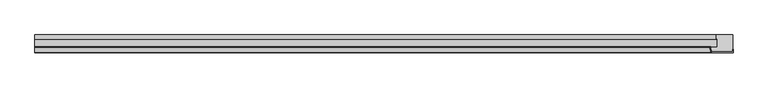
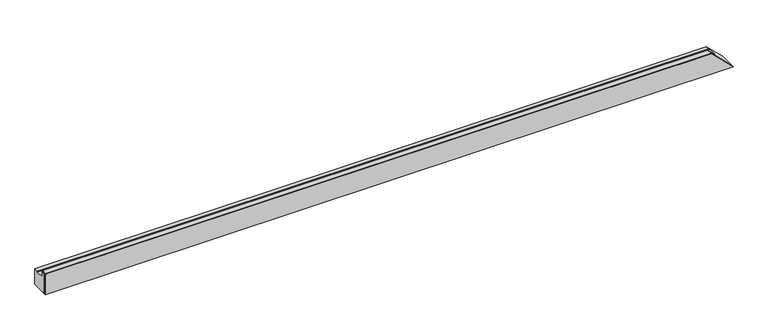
"""IFC4 building model written with IfcOpenShell, lengths in millimetres: proxy geometry, Weiku - Montante - Caixilho 02.2.01.005 : Weiku - Montante - Caixilho 02.2.01.005."""

from ifc_helpers import new_model, si_unit, frame, origin, place, context, project, spatial, polyline, circle_curve, ellipse_curve, source, transform, mapped, element, save
from ifc_brep_helpers import plane_surface, cylinder_surface, revolved_surface, advanced_brep


def generic_models_94b8e15c(model_context):
    return source(origin(), model_context, "Body", "AdvancedBrep", [
        advanced_brep(
        [(983.4663236, -4.0, 64.0336764), (1048.5, -4.0, -1.0), (1048.5, 6.4862095, -1.0), (1047.5, 6.4862095, 0.0), (1047.5, 0.0, 0.0), (985.9997332, 0.0, 61.5002668), (983.1019557, 2.2235429, 64.3980443), (980.618227, 11.4929448, 66.881773), (981.3909676, 12.5, 66.1090324), (981.3909676, 14.5, 66.1090324), (978.6863753, 10.9753067, 68.8136247), (982.5003978, -3.258819, 64.9996022), (-1047.5, -4.0, 64.0336764), (-1047.5, -4.0, -1.0), (-1047.5, -3.258819, 64.9996022), (-1047.5, 10.9753067, 68.8136247), (-1047.5, 14.5, 66.1090324), (-1047.5, 12.5, 66.1090324), (-1047.5, 11.4929448, 66.881773), (-1047.5, 2.2235429, 64.3980443), (-1047.5, 0.0, 61.5002668), (-1047.5, 0.0, 0.0), (-1047.5, 6.4862095, 0.0), (-1047.5, 6.4862095, -1.0)],
        [
            (0, 1),
            (1, 2),
            (2, 3),
            (3, 4),
            (4, 5),
            (5, 6, ellipse_curve(frame((985.9997332, 3.0, 61.5002668), z_axis=(-0.7071067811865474, 0.0, -0.7071067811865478), x_axis=(0.7071067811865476, 0.0, -0.7071067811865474)), 4.2426407, 3.0)),
            (6, 7),
            (7, 8, ellipse_curve(frame((981.3909676, 11.7, 66.1090324), z_axis=(-0.7071067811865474, 0.0, -0.7071067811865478), x_axis=(0.7071067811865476, 0.0, -0.7071067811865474)), 1.1313708, 0.8)),
            (8, 9),
            (9, 10, ellipse_curve(frame((981.3909676, 11.7, 66.1090324), z_axis=(0.7071067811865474, 0.0, 0.7071067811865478), x_axis=(-0.7071067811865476, 0.0, 0.7071067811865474)), 3.959798, 2.8)),
            (10, 11),
            (11, 0, ellipse_curve(frame((983.4663236, -3.0, 64.0336764), z_axis=(0.7071067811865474, 0.0, 0.7071067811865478), x_axis=(-0.7071067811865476, 0.0, 0.7071067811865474)), 1.4142136, 1.0)),
            (12, 13),
            (13, 1),
            (0, 12),
            (14, 12, circle_curve(frame((-1047.5, -3.0, 64.0336764), z_axis=(1.0, 0.0, 0.0), x_axis=(0.0, 1.0, 0.0)), 1.0)),
            (11, 14),
            (15, 14),
            (10, 15),
            (16, 15, circle_curve(frame((-1047.5, 11.7, 66.1090324), z_axis=(1.0, 0.0, 0.0), x_axis=(0.0, 1.0, 0.0)), 2.8)),
            (9, 16),
            (17, 16),
            (8, 17),
            (18, 17, circle_curve(frame((-1047.5, 11.7, 66.1090324), z_axis=(-1.0, 0.0, 0.0), x_axis=(0.0, 1.0, 0.0)), 0.8)),
            (7, 18),
            (19, 18),
            (6, 19),
            (20, 19, circle_curve(frame((-1047.5, 3.0, 61.5002668), z_axis=(-1.0, 0.0, 0.0), x_axis=(0.0, 1.0, 0.0)), 3.0)),
            (5, 20),
            (21, 20),
            (4, 21),
            (22, 21),
            (3, 22),
            (23, 22),
            (2, 23),
            (13, 23),
        ],
        [
            plane_surface(frame((977.5, -15.0, 70.0), z_axis=(0.7071067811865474, 0.0, 0.7071067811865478), x_axis=(0.0, 1.0, 0.0))),
            plane_surface(frame((-1047.5, -4.0, -1.0), z_axis=(0.0, -1.0, 0.0), x_axis=(1.0, 0.0, 0.0))),
            cylinder_surface(frame((-1047.5, -3.0, 64.0336764), z_axis=(-1.0, 0.0, 0.0), x_axis=(0.0, 1.0, 0.0)), 1.0),
            plane_surface(frame((-1047.5, -3.258819, 64.9996022), z_axis=(0.0, -0.25881904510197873, 0.9659258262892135), x_axis=(1.0, 0.0, 0.0))),
            cylinder_surface(frame((-1047.5, 11.7, 66.1090324), z_axis=(-1.0, 0.0, 0.0), x_axis=(0.0, 1.0, 0.0)), 2.8),
            plane_surface(frame((-1047.5, 14.5, 66.1090324), z_axis=(0.0, 0.0, -1.0), x_axis=(1.0, 0.0, 0.0))),
            revolved_surface(polyline([(982.1909675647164, 12.5, 66.1090324), (-1047.5, 12.5, 66.1090324)]), (-1047.5, 11.7, 66.1090324), (1.0, 0.0, 0.0)),
            plane_surface(frame((-1047.5, 11.4929448, 66.881773), z_axis=(0.0, 0.2588190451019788, -0.9659258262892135), x_axis=(1.0, 0.0, 0.0))),
            revolved_surface(polyline([(988.9997332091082, 6.0, 61.5002668), (-1047.5, 6.0, 61.5002668)]), (-1047.5, 3.0, 61.5002668), (1.0, 0.0, 0.0)),
            plane_surface(frame((-1047.5, 0.0, 61.5002668), z_axis=(0.0, 1.0, 0.0), x_axis=(1.0, 0.0, 0.0))),
            plane_surface(frame((-1047.5, 0.0, 0.0), z_axis=(0.0, 0.0, 1.0), x_axis=(1.0, 0.0, 0.0))),
            plane_surface(frame((-1047.5, 6.4862095, 0.0), z_axis=(0.0, 1.0, 0.0), x_axis=(1.0, 0.0, 0.0))),
            plane_surface(frame((-1047.5, 6.4862095, -1.0), z_axis=(0.0, 0.0, -1.0), x_axis=(1.0, 0.0, 0.0))),
            plane_surface(frame((-1047.5, 0.0, 0.0), z_axis=(-1.0, 0.0, 0.0), x_axis=(0.0, 0.0, 1.0))),
        ],
        [
            (0, [[1, 2, 3, 4, 5, 6, 7, 8, 9, 10, 11, 12]]),
            (1, [[13, 14, -1, 15]]),
            (2, [[16, -15, -12, 17]]),
            (3, [[18, -17, -11, 19]]),
            (4, [[20, -19, -10, 21]]),
            (5, [[22, -21, -9, 23]]),
            (6, [[24, -23, -8, 25]]),
            (7, [[26, -25, -7, 27]]),
            (8, [[28, -27, -6, 29]]),
            (9, [[30, -29, -5, 31]]),
            (10, [[32, -31, -4, 33]]),
            (11, [[34, -33, -3, 35]]),
            (12, [[36, -35, -2, -14]]),
            (13, [[-13, -16, -18, -20, -22, -24, -26, -28, -30, -32, -34, -36]]),
        ],
    ),
        advanced_brep(
        [(-1047.5, 12.5, 46.0), (-1047.5, 12.5, 66.1090324), (981.3909676, 12.5, 66.1090324), (1001.5, 12.5, 46.0), (-1047.5, 37.8314286, 46.0), (1001.5, 37.8314286, 46.0), (-1047.5, 37.027581, 49.0), (998.5, 37.027581, 49.0), (-1047.5, 50.0, 49.0), (998.5, 50.0, 49.0), (-1047.5, 50.0, 0.0), (1047.5, 50.0, 0.0), (-1047.5, 0.0, 0.0), (1047.5, 0.0, 0.0), (-1047.5, 0.0, 61.5002668), (985.9997332, 0.0, 61.5002668), (-1047.5, 11.4929448, 66.881773), (-1047.5, 2.2235429, 64.3980443), (983.1019557, 2.2235429, 64.3980443), (980.618227, 11.4929448, 66.881773)],
        [
            (0, 1),
            (1, 2),
            (2, 3),
            (3, 0),
            (4, 0),
            (3, 5),
            (5, 4),
            (6, 4),
            (5, 7),
            (7, 6),
            (8, 6),
            (7, 9),
            (9, 8),
            (10, 8),
            (9, 11),
            (11, 10),
            (12, 10),
            (11, 13),
            (13, 12),
            (14, 12),
            (13, 15),
            (15, 14),
            (16, 17),
            (17, 18),
            (18, 19),
            (19, 16),
            (2, 19, ellipse_curve(frame((981.3909676, 11.7, 66.1090324), z_axis=(0.7071067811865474, 0.0, 0.7071067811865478), x_axis=(-0.7071067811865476, 0.0, 0.7071067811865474)), 1.1313708, 0.8)),
            (18, 15, ellipse_curve(frame((985.9997332, 3.0, 61.5002668), z_axis=(0.7071067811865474, 0.0, 0.7071067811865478), x_axis=(-0.7071067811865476, 0.0, 0.7071067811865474)), 4.2426407, 3.0)),
            (1, 16, circle_curve(frame((-1047.5, 11.7, 66.1090324), z_axis=(1.0, 0.0, 0.0), x_axis=(0.0, 1.0, 0.0)), 0.8)),
            (17, 14, circle_curve(frame((-1047.5, 3.0, 61.5002668), z_axis=(1.0, 0.0, 0.0), x_axis=(0.0, 1.0, 0.0)), 3.0)),
        ],
        [
            plane_surface(frame((-1047.5, 12.5, 66.1090324), z_axis=(0.0, 1.0, 0.0), x_axis=(1.0, 0.0, 0.0))),
            plane_surface(frame((-1047.5, 12.5, 46.0), z_axis=(0.0, 0.0, 1.0), x_axis=(1.0, 0.0, 0.0))),
            plane_surface(frame((-1047.5, 37.8314286, 46.0), z_axis=(0.0, -0.9659258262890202, -0.2588190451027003), x_axis=(1.0, 0.0, 0.0))),
            plane_surface(frame((-1047.5, 37.027581, 49.0), z_axis=(0.0, 0.0, 1.0), x_axis=(1.0, 0.0, 0.0))),
            plane_surface(frame((-1047.5, 50.0, 49.0), z_axis=(0.0, 1.0, 0.0), x_axis=(1.0, 0.0, 0.0))),
            plane_surface(frame((-1047.5, 50.0, 0.0), z_axis=(0.0, 0.0, -1.0), x_axis=(1.0, 0.0, 0.0))),
            plane_surface(frame((-1047.5, 0.0, 0.0), z_axis=(0.0, -1.0, 0.0), x_axis=(1.0, 0.0, 0.0))),
            plane_surface(frame((-1047.5, 2.2235429, 64.3980443), z_axis=(0.0, -0.2588190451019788, 0.9659258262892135), x_axis=(1.0, 0.0, 0.0))),
            plane_surface(frame((977.5, -15.0, 70.0), z_axis=(0.7071067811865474, 0.0, 0.7071067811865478), x_axis=(0.0, 1.0, 0.0))),
            cylinder_surface(frame((-1047.5, 11.7, 66.1090324), z_axis=(-1.0, 0.0, 0.0), x_axis=(0.0, 1.0, 0.0)), 0.8),
            cylinder_surface(frame((-1047.5, 3.0, 61.5002668), z_axis=(-1.0, 0.0, 0.0), x_axis=(0.0, 1.0, 0.0)), 3.0),
            plane_surface(frame((-1047.5, 0.0, 0.0), z_axis=(-1.0, 0.0, 0.0), x_axis=(0.0, 0.0, 1.0))),
        ],
        [
            (0, [[1, 2, 3, 4]]),
            (1, [[5, -4, 6, 7]]),
            (2, [[8, -7, 9, 10]]),
            (3, [[11, -10, 12, 13]]),
            (4, [[14, -13, 15, 16]]),
            (5, [[17, -16, 18, 19]]),
            (6, [[20, -19, 21, 22]]),
            (7, [[23, 24, 25, 26]]),
            (8, [[-3, 27, -25, 28, -21, -18, -15, -12, -9, -6]]),
            (9, [[29, -26, -27, -2]]),
            (10, [[30, -22, -28, -24]]),
            (11, [[-29, -1, -5, -8, -11, -14, -17, -20, -30, -23]]),
        ],
    ),
    ])


if __name__ == "__main__":
    model = new_model("IFC4")
    model_context = context("Model", 3, world=origin())
    ifc_project = project(units=[si_unit("LENGTHUNIT", "METRE", prefix="MILLI")], contexts=[model_context])
    site = spatial("IfcSite", under=ifc_project)
    building = spatial("IfcBuilding", under=site)
    placement = place(None, origin())
    generic_models_shape = generic_models_94b8e15c(model_context)
    element("IfcBuildingElementProxy", 1, Name="Weiku - Montante - Caixilho 02.2.01.005 : Weiku - Montante - Caixilho 02.2.01.005", ObjectType="Weiku - Montante - Caixilho 02.2.01.005 : Weiku - Montante - Caixilho 02.2.01.005", at=placement, inside=building, context=model_context, shape_type="MappedRepresentation", body=[
        mapped(generic_models_shape, transform((0.0, 0.0, 0.0), x_axis=(1.0, 0.0, 0.0), y_axis=(0.0, 1.0, 0.0), z_axis=(0.0, 0.0, 1.0))),
    ])
    save(model, "model.ifc")
